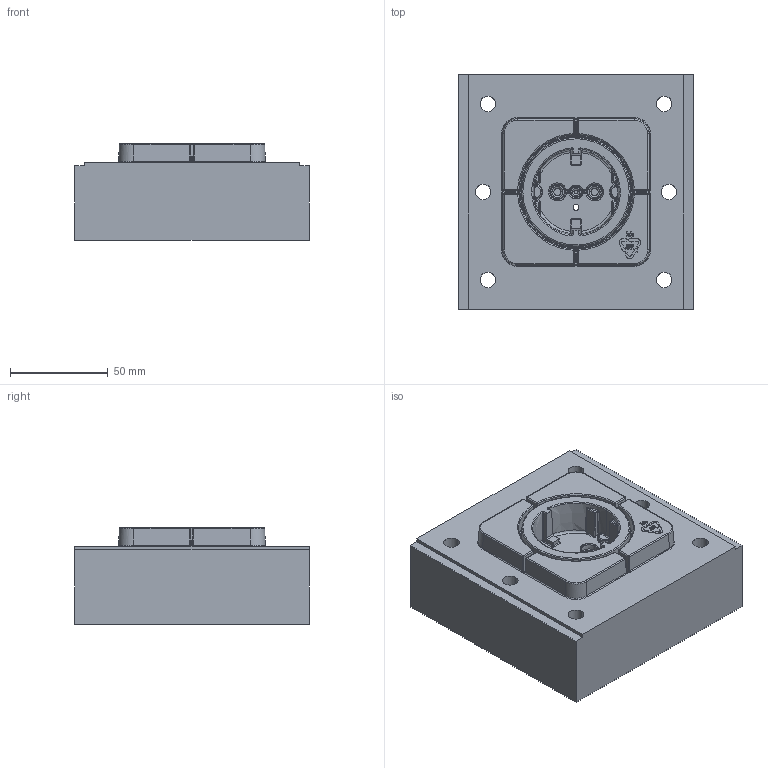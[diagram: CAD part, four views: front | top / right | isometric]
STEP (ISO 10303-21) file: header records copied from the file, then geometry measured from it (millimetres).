
FILE_DESCRIPTION (( 'STEP AP214' ), '1' );
FILE_NAME ('Mould-Side_A.STEP', '2020-01-06T13:06:17', ( 'Ritterchen' ), ( 'Microsoft' ), 'SwSTEP 2.0', 'SolidWorks 2020', '' );
FILE_SCHEMA (( 'AUTOMOTIVE_DESIGN' ));
Length unit declared in the file: millimetre
Products named in the file (1): Mould-Side_A
Bounding box: 120 x 120 x 49.5 mm (x, y, z)
Volume: 580568.3 mm3; surface area: 62712.5 mm2
Topology: 1 solids, 1 shells, 529 faces, 1263 edges, 746 vertices
Faces by surface type: bspline 189, cylinder 135, plane 119, sphere 68, cone 12, torus 6
Entity records: 22173 total; most frequent: CARTESIAN_POINT 11581, ORIENTED_EDGE 2510, DIRECTION 1765, EDGE_CURVE 1255, VERTEX_POINT 746, AXIS2_PLACEMENT_3D 658, EDGE_LOOP 561, FACE_OUTER_BOUND 529
